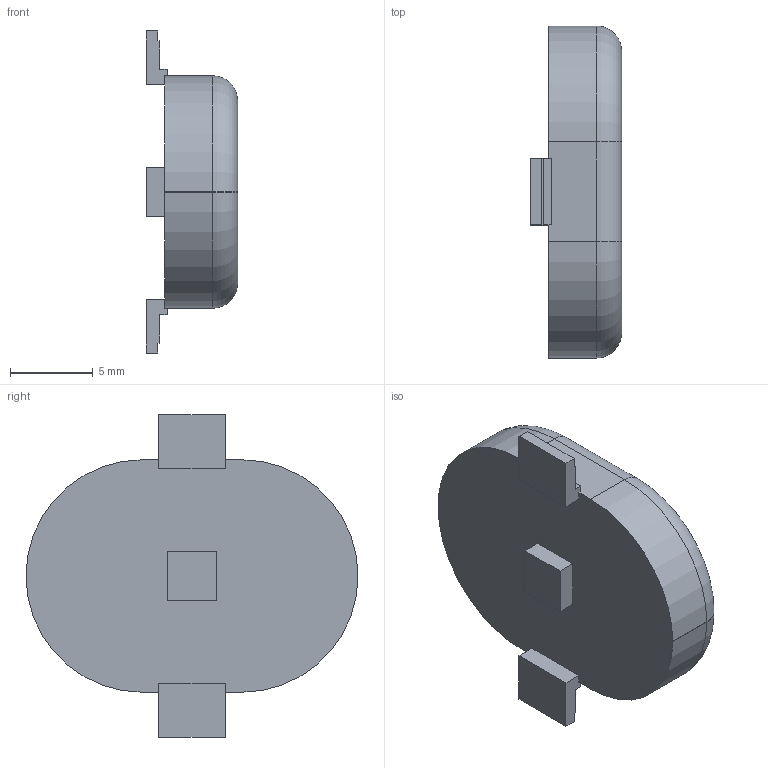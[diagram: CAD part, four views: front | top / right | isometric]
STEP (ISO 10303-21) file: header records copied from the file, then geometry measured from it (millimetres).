
FILE_DESCRIPTION(('Open CASCADE Model'),'2;1');
FILE_NAME('Open CASCADE Shape Model','2026-09-08T16:16:29',('Author'),( 'Open CASCADE'),'Open CASCADE STEP processor 7.7','Open CASCADE 7.7' ,'Unknown');
FILE_SCHEMA(('AUTOMOTIVE_DESIGN { 1 0 10303 214 1 1 1 1 }'));
Length unit declared in the file: millimetre
Products named in the file (1): Open CASCADE STEP translator 7.7 17
Bounding box: 5.5 x 20 x 19.4 mm (x, y, z)
Volume: 1051.2 mm3; surface area: 778.3 mm2
Topology: 1 solids, 1 shells, 64 faces, 172 edges, 112 vertices
Faces by surface type: plane 44, cylinder 16, torus 4
Entity records: 4264 total; most frequent: CARTESIAN_POINT 843, DIRECTION 632, LINE 426, VECTOR 426, ORIENTED_EDGE 344, PCURVE 344, DEFINITIONAL_REPRESENTATION 344, EDGE_CURVE 172
